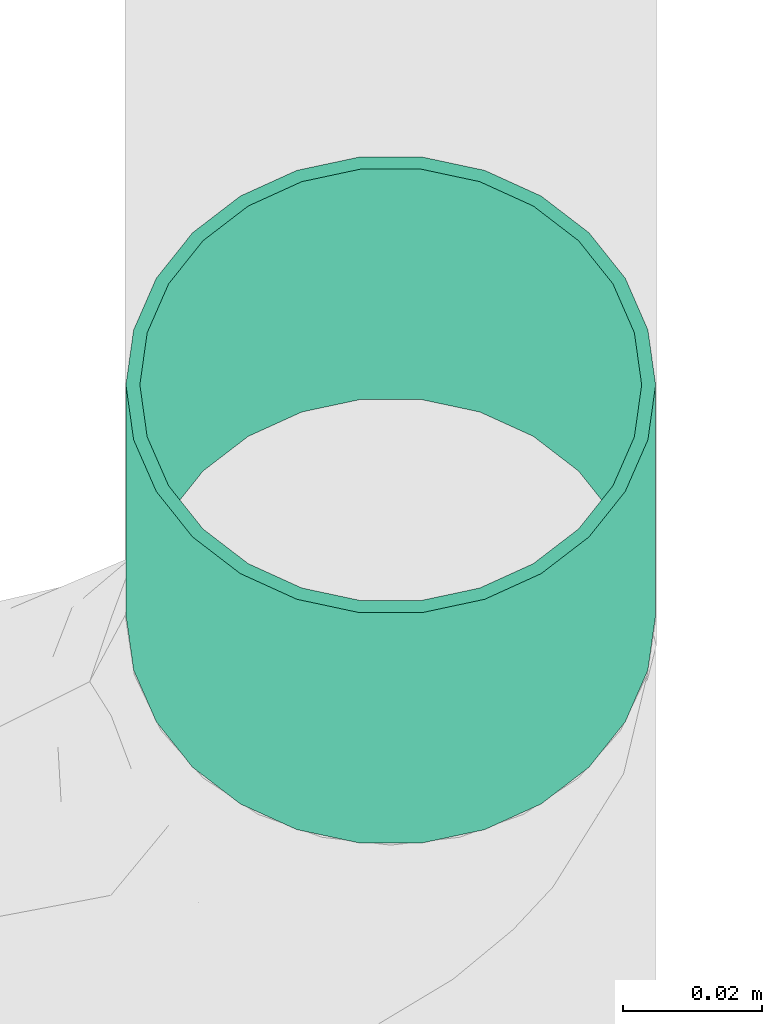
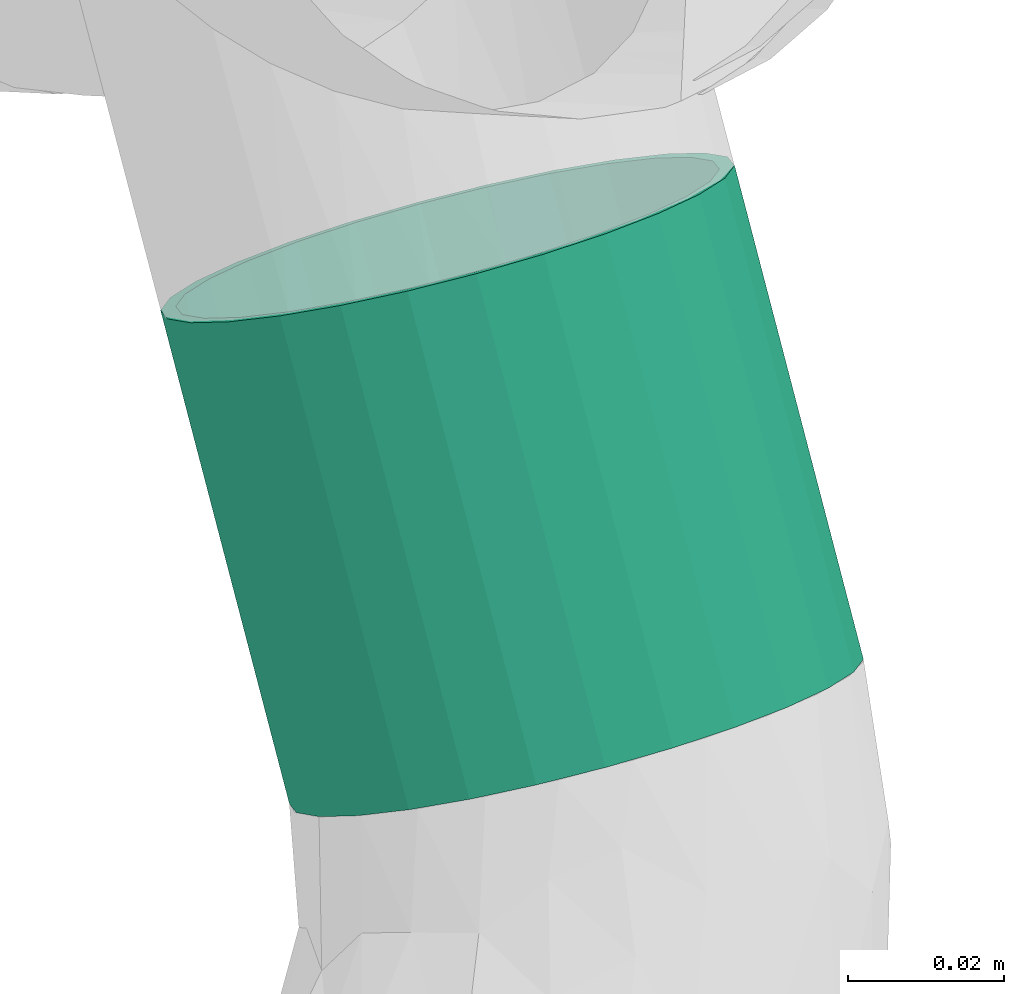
# One storey, part 13 of 51: 1 flow segment.
"""IFC2X3 building model written with IfcOpenShell, lengths in millimetres."""

from ifc_helpers import new_model, entity, si_unit, converted_unit, derived_unit, direction, frame, origin_with_axes, origin_2d_with_axis, place, context, subcontext, project, spatial, hollow_circle, extrude, source, transform, mapped, type_object, element, save


model = new_model("IFC2X3")

# Units and contexts
model_context = context("Model", 3, precision=0.01, world=frame((0.0, 4.29681676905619e-09, 0.0)), true_north=direction((4.01073788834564e-13, 1.0)))
plan_context = context("Plan", 3, precision=0.01, world=frame((0.0, 4.29681676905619e-09, 0.0)), true_north=direction((4.01073788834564e-13, 1.0)))
body_context = subcontext(model_context, "Body", "Model", "MODEL_VIEW")
ifc_project = project(units=[converted_unit("PLANEANGLEUNIT", "DEGREE", entity("IfcPositiveLengthMeasure", 0.0174532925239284), si_unit("PLANEANGLEUNIT", "RADIAN"), dimensions=[0, 0, 0, 0, 0, 0, 0]), si_unit("AREAUNIT", "SQUARE_METRE"), si_unit("LENGTHUNIT", "METRE", prefix="MILLI"), si_unit("MASSUNIT", "GRAM", prefix="KILO"), si_unit("POWERUNIT", "WATT"), si_unit("PRESSUREUNIT", "PASCAL"), si_unit("FORCEUNIT", "NEWTON", prefix="KILO"), si_unit("ELECTRICVOLTAGEUNIT", "VOLT"), si_unit("ELECTRICCURRENTUNIT", "AMPERE"), si_unit("THERMODYNAMICTEMPERATUREUNIT", "DEGREE_CELSIUS"), si_unit("TIMEUNIT", "SECOND"), si_unit("VOLUMEUNIT", "CUBIC_METRE"), derived_unit("LINEARVELOCITYUNIT", [(si_unit("LENGTHUNIT", "METRE"), 1), (si_unit("TIMEUNIT", "SECOND"), -1)]), derived_unit("VOLUMETRICFLOWRATEUNIT", [(si_unit("VOLUMEUNIT", "CUBIC_METRE"), 1), (si_unit("TIMEUNIT", "SECOND"), -1)]), derived_unit("THERMALTRANSMITTANCEUNIT", [(si_unit("POWERUNIT", "WATT"), 1), (si_unit("THERMODYNAMICTEMPERATUREUNIT", "KELVIN"), -1), (si_unit("AREAUNIT", "SQUARE_METRE"), -1)]), derived_unit("SOUNDPRESSUREUNIT", [(si_unit("PRESSUREUNIT", "PASCAL"), 1)])], contexts=[model_context, plan_context])

# Site, building, storey
site_placement = place(None, frame((0.0, -4.29681676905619e-09, 0.0), z_axis=(0.0, 0.0, 1.0), x_axis=(1.0, 0.0, 0.0)))
site = spatial("IfcSite", under=ifc_project, at=site_placement, Name="ENGM", CompositionType="ELEMENT")
building_placement = place(site_placement, frame((0.0, 4.29681676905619e-09, 0.0), z_axis=(0.0, 0.0, 1.0), x_axis=(1.0, 0.0, 0.0)))
building = spatial("IfcBuilding", under=site, at=building_placement, Name="TH", CompositionType="ELEMENT")
storey_placement = place(building_placement, frame((0.0, 0.0, 210200.0), z_axis=(0.0, 0.0, 1.0), x_axis=(1.0, 0.0, 0.0)))
storey = spatial("IfcBuildingStorey", under=building, at=storey_placement, Name="Nivå F - 0,7 m", CompositionType="ELEMENT", Elevation=210200.0)

# Flow segment
pipe_segment_type = type_object("IfcPipeSegmentType", Name="Stålrør normaltykke", PredefinedType="RIGIDSEGMENT")
shared_shape = source(origin_with_axes(), body_context, "Body", "SweptSolid", [
    extrude(hollow_circle(Radius=38.0, WallThickness=2.0, at=origin_2d_with_axis()), frame((0.0, 0.0, 0.0), z_axis=(1.0, 0.0, 0.0), x_axis=(0.0, 1.0, 0.0)), (0.0, 0.0, 1.0), 66.1),
])
flow_segment_placement = place(storey_placement, frame((910379.87531, 484367.55519, 2998.99114), z_axis=(0.0, -0.866025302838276, 0.500000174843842), x_axis=(0.0, 0.500000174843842, 0.866025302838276)))
element("IfcFlowSegment", 1, at=flow_segment_placement, inside=storey, type_object=pipe_segment_type, Name="Stålrør normaltykke", context=body_context, shape_type="MappedRepresentation", body=[
    mapped(shared_shape, transform((0.0, 0.0, 0.0), scale=1.0)),
])

save(model, "model.ifc")
